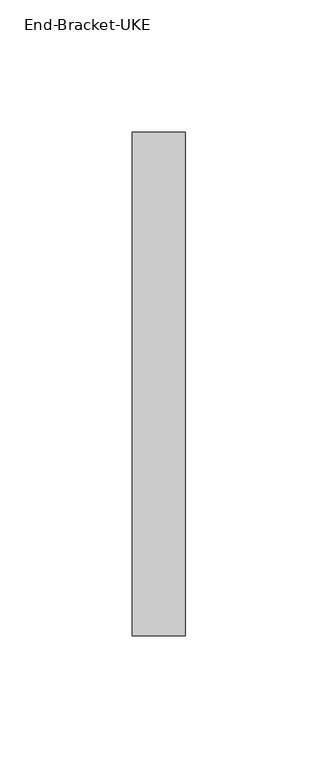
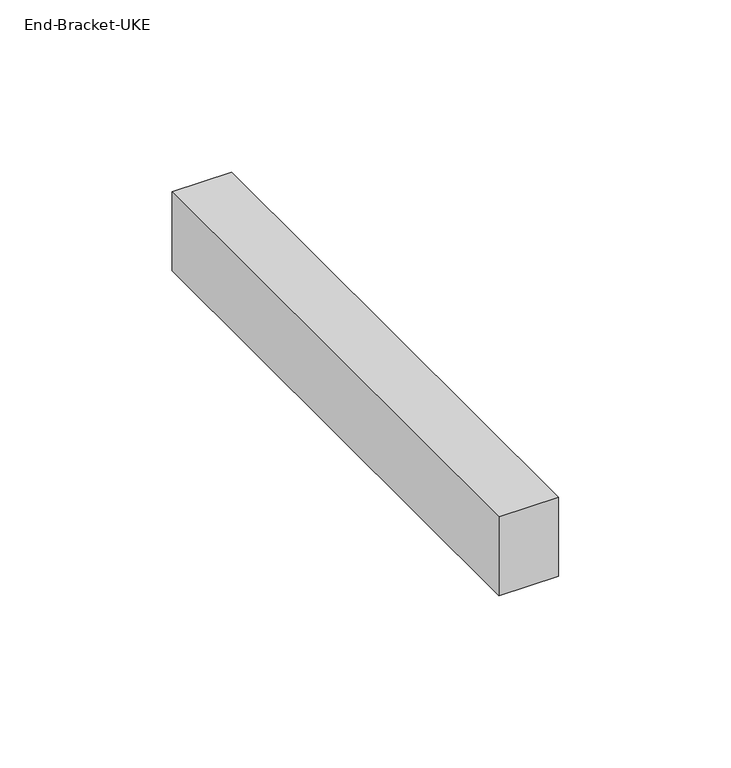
"""IFC4 building model written with IfcOpenShell, lengths in millimetres: cable carrier fitting geometry, Electrical-Installations_Hager_End-Bracket-UKE : End-Bracket-UKE."""

import ifcopenshell
import ifcopenshell.guid

model = None  # the IFC model being written
_history = None  # IfcOwnerHistory: only IFC2X3 demands one
_inside = {}  # id of a spatial element -> (the spatial element, [elements in it])
_under = {}  # id of a project, library or spatial element -> (it, [spatial elements below it])
_declared = {}  # id of a project -> (the project, [libraries it declares])
_typed = {}  # id of a type object -> (the type object, [elements of that type])
_made_of = {}  # id of a material, layer set ... -> (it, [elements and type objects made of it])


def new_model(schema):
    """Start an empty IFC model of exactly this schema.

    Asked for "IFC4X3", IfcOpenShell would pick the latest addendum, in which some entities
    have other attributes; the version numbers below select the first issue.
    IFC2X3 requires an IfcOwnerHistory on every rooted entity: one is made here for all.
    """
    global model, _history
    if schema == "IFC4X3":
        model = ifcopenshell.file(schema_version=(4, 3, 0, 0))
    else:
        model = ifcopenshell.file(schema=schema)
    _inside.clear()
    _under.clear()
    _declared.clear()
    _typed.clear()
    _made_of.clear()
    _history = None
    if model.schema == "IFC2X3":
        org = make("IfcOrganization", Name="unknown")
        user = make(
            "IfcPersonAndOrganization",
            ThePerson=make("IfcPerson", FamilyName="unknown"),
            TheOrganization=org,
        )
        app = make(
            "IfcApplication",
            ApplicationDeveloper=org,
            Version="unknown",
            ApplicationFullName="unknown",
            ApplicationIdentifier="unknown",
        )
        _history = make(
            "IfcOwnerHistory",
            OwningUser=user,
            OwningApplication=app,
            ChangeAction="ADDED",
            CreationDate=0,
        )
    return model


def make(cls, **values):
    """One entity of the class cls with the attributes given. An attribute that is None is left unset."""
    return model.create_entity(
        cls, **{name: value for name, value in values.items() if value is not None}
    )


def rooted(cls, **values):
    """An entity with a GlobalId (a new one), such as an element, a storey or a relation."""
    return make(cls, GlobalId=ifcopenshell.guid.new(), OwnerHistory=_history, **values)


def si_unit(unit_type, name, prefix=None):
    """IfcSIUnit, for example si_unit("LENGTHUNIT", "METRE", prefix="MILLI")."""
    return make("IfcSIUnit", UnitType=unit_type, Prefix=prefix, Name=name)


def assignment(units):
    """IfcUnitAssignment: the units of a project."""
    return None if units is None else make("IfcUnitAssignment", Units=units)


def point(xyz):
    """IfcCartesianPoint."""
    return None if xyz is None else make("IfcCartesianPoint", Coordinates=xyz)


def direction(xyz):
    """IfcDirection."""
    return None if xyz is None else make("IfcDirection", DirectionRatios=xyz)


def frame(location, z_axis=None, x_axis=None):
    """IfcAxis2Placement3D, a coordinate frame: its origin and axes. An axis left out is left unset."""
    return make(
        "IfcAxis2Placement3D",
        Location=point(location),
        Axis=direction(z_axis),
        RefDirection=direction(x_axis),
    )


def origin():
    """The frame at (0, 0, 0) with its axes left unset."""
    return frame((0.0, 0.0, 0.0))


def place(relative_to, where):
    """IfcLocalPlacement: puts the frame where relative to a parent placement (None: the world)."""
    return make(
        "IfcLocalPlacement", PlacementRelTo=relative_to, RelativePlacement=where
    )


def context(
    kind, dimensions, precision=None, world=None, true_north=None, identifier=None
):
    """IfcGeometricRepresentationContext, for example the 3D "Model" context."""
    return make(
        "IfcGeometricRepresentationContext",
        ContextIdentifier=identifier,
        ContextType=kind,
        CoordinateSpaceDimension=dimensions,
        Precision=precision,
        WorldCoordinateSystem=world,
        TrueNorth=true_north,
    )


def project(units=None, contexts=None):
    """IfcProject with its units and contexts."""
    return rooted(
        "IfcProject",
        Name="project",
        RepresentationContexts=contexts,
        UnitsInContext=assignment(units),
    )


def spatial(cls, under=None, at=None, **own):
    """A site, building, storey or space (cls), placed at a placement, below another one or the project."""
    s = rooted(cls, ObjectPlacement=at, **own)
    if under is not None:
        _under.setdefault(under.id(), (under, []))[1].append(s)
    return s


def polyline(points):
    """IfcPolyline through the points."""
    return make("IfcPolyline", Points=[point(p) for p in points])


def outline(outer, holes=None, kind="AREA"):
    """IfcArbitraryClosedProfileDef: a profile drawn as a closed curve; with holes, ...WithVoids."""
    if holes is None:
        return make("IfcArbitraryClosedProfileDef", ProfileType=kind, OuterCurve=outer)
    return make(
        "IfcArbitraryProfileDefWithVoids",
        ProfileType=kind,
        OuterCurve=outer,
        InnerCurves=holes,
    )


def extrude(swept, where, along, depth):
    """IfcExtrudedAreaSolid: the profile swept, set in the frame where, extruded along a direction by depth."""
    return make(
        "IfcExtrudedAreaSolid",
        SweptArea=swept,
        Position=where,
        ExtrudedDirection=direction(along),
        Depth=depth,
    )


def shape(context_of_items, identifier, shape_type, items):
    """IfcShapeRepresentation: the items that make up one representation, for example the "Body"."""
    return make(
        "IfcShapeRepresentation",
        ContextOfItems=context_of_items,
        RepresentationIdentifier=identifier,
        RepresentationType=shape_type,
        Items=items,
    )


def source(mapping_origin, context_of_items, identifier, shape_type, items):
    """IfcRepresentationMap: a shape defined once, which mapped items show again and again."""
    return make(
        "IfcRepresentationMap",
        MappingOrigin=mapping_origin,
        MappedRepresentation=shape(context_of_items, identifier, shape_type, items),
    )


def transform(
    local_origin,
    x_axis=None,
    y_axis=None,
    z_axis=None,
    scale=None,
    scale2=None,
    scale3=None,
    uniform=True,
):
    """IfcCartesianTransformationOperator3D, or its non-uniform kind. x_axis, y_axis, z_axis: its Axis1, 2, 3."""
    if uniform:
        return make(
            "IfcCartesianTransformationOperator3D",
            Axis1=direction(x_axis),
            Axis2=direction(y_axis),
            LocalOrigin=point(local_origin),
            Scale=scale,
            Axis3=direction(z_axis),
        )
    return make(
        "IfcCartesianTransformationOperator3DnonUniform",
        Axis1=direction(x_axis),
        Axis2=direction(y_axis),
        LocalOrigin=point(local_origin),
        Scale=scale,
        Axis3=direction(z_axis),
        Scale2=scale2,
        Scale3=scale3,
    )


def mapped(mapping_source, mapping_target):
    """IfcMappedItem: shows the shape of a source again, moved by a transform."""
    return make(
        "IfcMappedItem", MappingSource=mapping_source, MappingTarget=mapping_target
    )


def made_of(thing, what):
    """Note that an element or type object is made of a material, layer set ...; save() writes the relation."""
    if what is not None:
        _made_of.setdefault(what.id(), (what, []))[1].append(thing)
    return thing


def element(
    cls,
    number,
    at=None,
    inside=None,
    cuts=None,
    type_object=None,
    material=None,
    context=None,
    identifier="Body",
    shape_type=None,
    held_by="IfcProductDefinitionShape",
    body=None,
    shapes=None,
    **own,
):
    """One element of the class cls, such as IfcWall. Its Tag is "e" and its number.

    at: its placement. inside: the storey or other place that contains it. cuts: it is an
    opening in that element (IfcRelVoidsElement). A single representation is given by context,
    identifier, shape_type and body (its items); several are given by shapes. held_by: the class
    of the entity that holds the representations. save() writes the other relations.
    """
    e = rooted(cls, Tag="e%d" % number, ObjectPlacement=at, **own)
    if body is not None:
        shapes = [shape(context, identifier, shape_type, body)]
    if shapes is not None:
        e.Representation = make(held_by, Representations=shapes)
    if inside is not None:
        _inside.setdefault(inside.id(), (inside, []))[1].append(e)
    if cuts is not None:
        rooted(
            "IfcRelVoidsElement", RelatingBuildingElement=cuts, RelatedOpeningElement=e
        )
    if type_object is not None:
        _typed.setdefault(type_object.id(), (type_object, []))[1].append(e)
    return made_of(e, material)


def aggregate(whole, parts):
    """IfcRelAggregates: a whole, such as a stair, and the parts it consists of."""
    return rooted("IfcRelAggregates", RelatingObject=whole, RelatedObjects=parts)


def save(model, path):
    """Write the relations noted so far, then the file.

    IfcRelAggregates (storeys below a building ...), IfcRelContainedInSpatialStructure (elements
    in a storey), IfcRelDefinesByType, IfcRelAssociatesMaterial and IfcRelDeclares: one each for
    every whole, place, type object, material and project.
    """
    for whole, parts in _under.values():
        aggregate(whole, parts)
    for where, things in _inside.values():
        rooted(
            "IfcRelContainedInSpatialStructure",
            RelatedElements=things,
            RelatingStructure=where,
        )
    for kind, things in _typed.values():
        rooted("IfcRelDefinesByType", RelatedObjects=things, RelatingType=kind)
    for what, things in _made_of.values():
        rooted("IfcRelAssociatesMaterial", RelatedObjects=things, RelatingMaterial=what)
    for by, libraries in _declared.values():
        rooted("IfcRelDeclares", RelatingContext=by, RelatedDefinitions=libraries)
    model.write(path)


def end_bracket_uke_1009efe0(model_context):
    return source(origin(), model_context, "Body", "SweptSolid", [
        extrude(outline(polyline([(0.0, -95.0), (0.0, 95.0), (20.0, 95.0), (20.0, -95.0), (0.0, -95.0)])), frame((0.0, 0.0, -14.0), z_axis=(0.0, 0.0, 1.0), x_axis=(1.0, 0.0, 0.0)), (0.0, 0.0, 1.0), 28.0),
    ])


if __name__ == "__main__":
    model = new_model("IFC4")
    model_context = context("Model", 3, world=origin())
    ifc_project = project(units=[si_unit("LENGTHUNIT", "METRE", prefix="MILLI")], contexts=[model_context])
    site = spatial("IfcSite", under=ifc_project)
    building = spatial("IfcBuilding", under=site)
    placement = place(None, origin())
    end_bracket_uke_shape = end_bracket_uke_1009efe0(model_context)
    element("IfcCableCarrierFitting", 1, ObjectType="Electrical-Installations_Hager_End-Bracket-UKE : End-Bracket-UKE", at=placement, inside=building, context=model_context, shape_type="MappedRepresentation", body=[
        mapped(end_bracket_uke_shape, transform((0.0, 0.0, 0.0), x_axis=(1.0, 0.0, 0.0), y_axis=(0.0, 1.0, 0.0), z_axis=(0.0, 0.0, 1.0))),
    ])
    save(model, "model.ifc")
